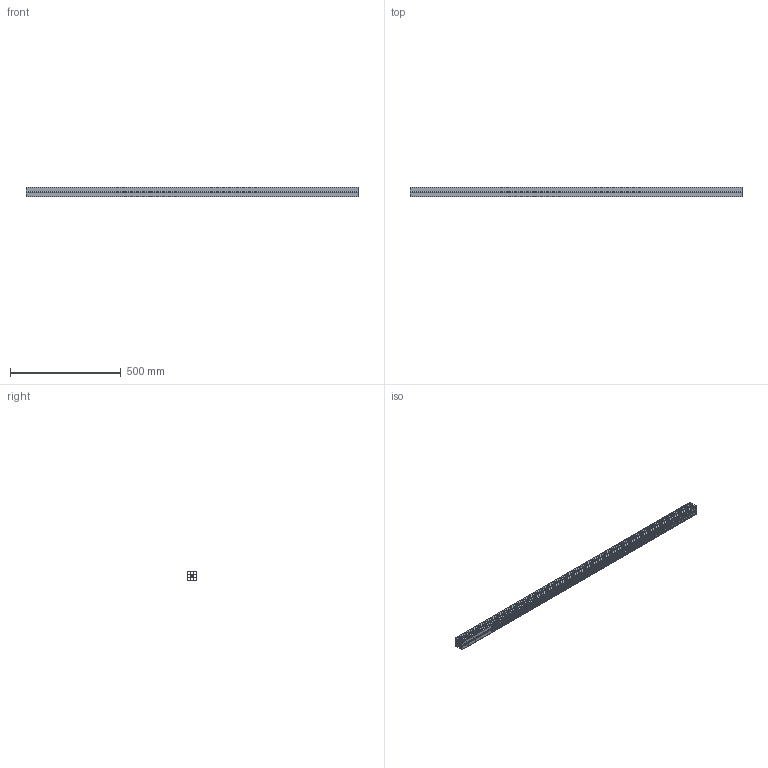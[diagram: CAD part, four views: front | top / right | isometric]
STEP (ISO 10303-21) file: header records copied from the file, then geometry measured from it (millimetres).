
FILE_DESCRIPTION (( 'STEP AP203' ), '1' );
FILE_NAME ('084.106.501.STEP', '2022-07-08T11:50:56', ( '' ), ( '' ), 'SwSTEP 2.0', 'SolidWorks 2021', '' );
FILE_SCHEMA (( 'CONFIG_CONTROL_DESIGN' ));
Length unit declared in the file: millimetre
Products named in the file (1): 084.106.501
Bounding box: 1500 x 45 x 45 mm (x, y, z)
Volume: 841329.6 mm3; surface area: 845997.1 mm2
Topology: 1 solids, 1 shells, 139 faces, 411 edges, 274 vertices
Faces by surface type: plane 74, cylinder 65
Entity records: 4772 total; most frequent: CARTESIAN_POINT 825, ORIENTED_EDGE 822, DIRECTION 821, EDGE_CURVE 411, LINE 281, VECTOR 281, VERTEX_POINT 274, AXIS2_PLACEMENT_3D 270
